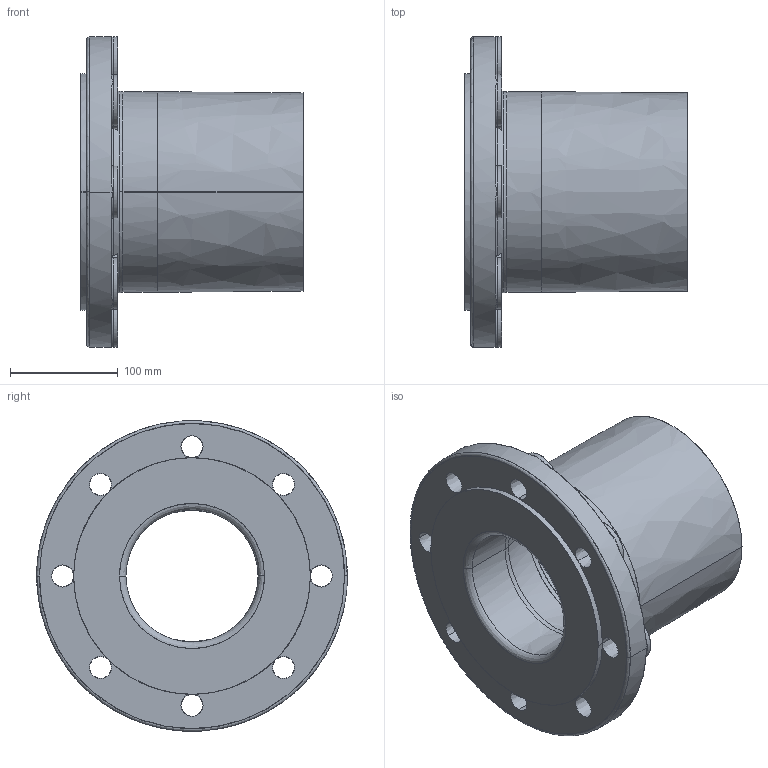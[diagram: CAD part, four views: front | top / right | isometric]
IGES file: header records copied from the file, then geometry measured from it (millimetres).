
Start section:  PTC IGES file: efl_d180_dn150_01.igs
Global section: file name: efl_d180_dn150_01.igs; native system: Pro/ENGINEER by Parametric Technology Corporation; preprocessor: 2011490; author: mtunjic; organization: Unknown; date: 20130819.134121; units: millimetre
Bounding box: 206.5 x 288 x 288 mm (x, y, z)
Surface area: 348700.4 mm2 (no closed solid volume)
Topology: 0 solids, 0 shells, 465 faces, 2344 edges, 2344 vertices
Faces by surface type: bspline 465
